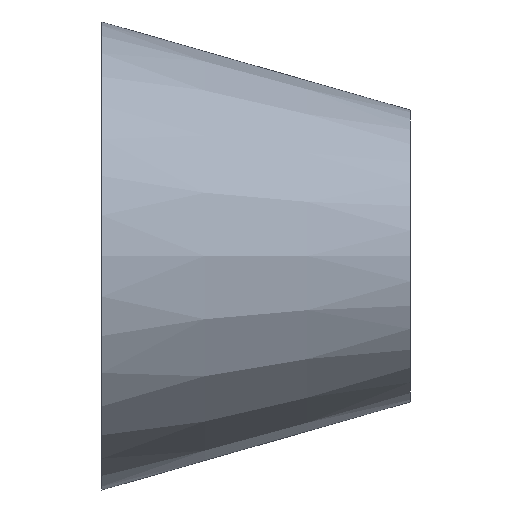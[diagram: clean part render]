
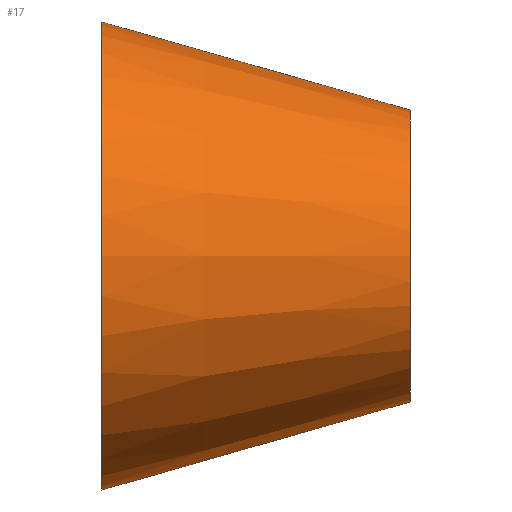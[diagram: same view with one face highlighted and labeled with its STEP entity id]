
A CAD part, front view. The second image highlights one B-rep face of the part: STEP entity #17.
In plain terms, the highlighted conical face has half-angle 15.945 degrees and reference radius 42.5 mm.
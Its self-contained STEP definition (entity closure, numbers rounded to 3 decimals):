
#17 = ADVANCED_FACE('',(#18),#31,.T.);
#18 = FACE_BOUND('',#19,.T.);
#19 = EDGE_LOOP('',(#20,#54,#74,#101));
#20 = ORIENTED_EDGE('',*,*,#21,.T.);
#21 = EDGE_CURVE('',#22,#22,#24,.T.);
#22 = VERTEX_POINT('',#23);
#23 = CARTESIAN_POINT('',(0.,42.5,0.));
#24 = SURFACE_CURVE('',#25,(#30,#42),.PCURVE_S1.);
#25 = CIRCLE('',#26,42.5);
#26 = AXIS2_PLACEMENT_3D('',#27,#28,#29);
#27 = CARTESIAN_POINT('',(0.,0.,0.));
#28 = DIRECTION('',(1.,0.,0.));
#29 = DIRECTION('',(0.,1.,0.));
#30 = PCURVE('',#31,#36);
#31 = CONICAL_SURFACE('',#32,42.5,0.278);
#32 = AXIS2_PLACEMENT_3D('',#33,#34,#35);
#33 = CARTESIAN_POINT('',(0.,0.,0.));
#34 = DIRECTION('',(-1.,-0.,-0.));
#35 = DIRECTION('',(0.,1.,0.));
#36 = DEFINITIONAL_REPRESENTATION('',(#37),#41);
#37 = LINE('',#38,#39);
#38 = CARTESIAN_POINT('',(-0.,-0.));
#39 = VECTOR('',#40,1.);
#40 = DIRECTION('',(-1.,-0.));
#41 = ( GEOMETRIC_REPRESENTATION_CONTEXT(2) 
PARAMETRIC_REPRESENTATION_CONTEXT() REPRESENTATION_CONTEXT('2D SPACE',''
  ) );
#42 = PCURVE('',#43,#48);
#43 = PLANE('',#44);
#44 = AXIS2_PLACEMENT_3D('',#45,#46,#47);
#45 = CARTESIAN_POINT('',(0.,0.,0.));
#46 = DIRECTION('',(1.,0.,0.));
#47 = DIRECTION('',(0.,1.,0.));
#48 = DEFINITIONAL_REPRESENTATION('',(#49),#53);
#49 = CIRCLE('',#50,42.5);
#50 = AXIS2_PLACEMENT_2D('',#51,#52);
#51 = CARTESIAN_POINT('',(0.,0.));
#52 = DIRECTION('',(1.,0.));
#53 = ( GEOMETRIC_REPRESENTATION_CONTEXT(2) 
PARAMETRIC_REPRESENTATION_CONTEXT() REPRESENTATION_CONTEXT('2D SPACE',''
  ) );
#54 = ORIENTED_EDGE('',*,*,#55,.T.);
#55 = EDGE_CURVE('',#22,#56,#58,.T.);
#56 = VERTEX_POINT('',#57);
#57 = CARTESIAN_POINT('',(56.,26.5,0.));
#58 = SEAM_CURVE('',#59,(#62,#68),.PCURVE_S1.);
#59 = B_SPLINE_CURVE_WITH_KNOTS('',1,(#60,#61),.UNSPECIFIED.,.F.,.F.,(2,
    2),(0.,1.),.PIECEWISE_BEZIER_KNOTS.);
#60 = CARTESIAN_POINT('',(0.,42.5,0.));
#61 = CARTESIAN_POINT('',(56.,26.5,0.));
#62 = PCURVE('',#31,#63);
#63 = DEFINITIONAL_REPRESENTATION('',(#64),#67);
#64 = B_SPLINE_CURVE_WITH_KNOTS('',1,(#65,#66),.UNSPECIFIED.,.F.,.F.,(2,
    2),(0.,1.),.PIECEWISE_BEZIER_KNOTS.);
#65 = CARTESIAN_POINT('',(-6.283,0.));
#66 = CARTESIAN_POINT('',(-6.283,-56.));
#67 = ( GEOMETRIC_REPRESENTATION_CONTEXT(2) 
PARAMETRIC_REPRESENTATION_CONTEXT() REPRESENTATION_CONTEXT('2D SPACE',''
  ) );
#68 = PCURVE('',#31,#69);
#69 = DEFINITIONAL_REPRESENTATION('',(#70),#73);
#70 = B_SPLINE_CURVE_WITH_KNOTS('',1,(#71,#72),.UNSPECIFIED.,.F.,.F.,(2,
    2),(0.,1.),.PIECEWISE_BEZIER_KNOTS.);
#71 = CARTESIAN_POINT('',(0.,0.));
#72 = CARTESIAN_POINT('',(0.,-56.));
#73 = ( GEOMETRIC_REPRESENTATION_CONTEXT(2) 
PARAMETRIC_REPRESENTATION_CONTEXT() REPRESENTATION_CONTEXT('2D SPACE',''
  ) );
#74 = ORIENTED_EDGE('',*,*,#75,.F.);
#75 = EDGE_CURVE('',#56,#56,#76,.T.);
#76 = SURFACE_CURVE('',#77,(#82,#89),.PCURVE_S1.);
#77 = CIRCLE('',#78,26.5);
#78 = AXIS2_PLACEMENT_3D('',#79,#80,#81);
#79 = CARTESIAN_POINT('',(56.,0.,0.));
#80 = DIRECTION('',(1.,0.,0.));
#81 = DIRECTION('',(0.,1.,0.));
#82 = PCURVE('',#31,#83);
#83 = DEFINITIONAL_REPRESENTATION('',(#84),#88);
#84 = LINE('',#85,#86);
#85 = CARTESIAN_POINT('',(-0.,-56.));
#86 = VECTOR('',#87,1.);
#87 = DIRECTION('',(-1.,-0.));
#88 = ( GEOMETRIC_REPRESENTATION_CONTEXT(2) 
PARAMETRIC_REPRESENTATION_CONTEXT() REPRESENTATION_CONTEXT('2D SPACE',''
  ) );
#89 = PCURVE('',#90,#95);
#90 = PLANE('',#91);
#91 = AXIS2_PLACEMENT_3D('',#92,#93,#94);
#92 = CARTESIAN_POINT('',(56.,0.,0.));
#93 = DIRECTION('',(1.,0.,0.));
#94 = DIRECTION('',(0.,1.,0.));
#95 = DEFINITIONAL_REPRESENTATION('',(#96),#100);
#96 = CIRCLE('',#97,26.5);
#97 = AXIS2_PLACEMENT_2D('',#98,#99);
#98 = CARTESIAN_POINT('',(0.,0.));
#99 = DIRECTION('',(1.,0.));
#100 = ( GEOMETRIC_REPRESENTATION_CONTEXT(2) 
PARAMETRIC_REPRESENTATION_CONTEXT() REPRESENTATION_CONTEXT('2D SPACE',''
  ) );
#101 = ORIENTED_EDGE('',*,*,#55,.F.);
